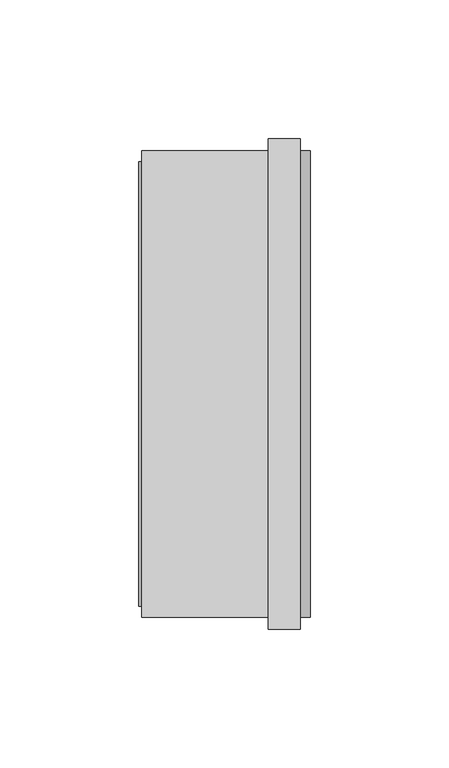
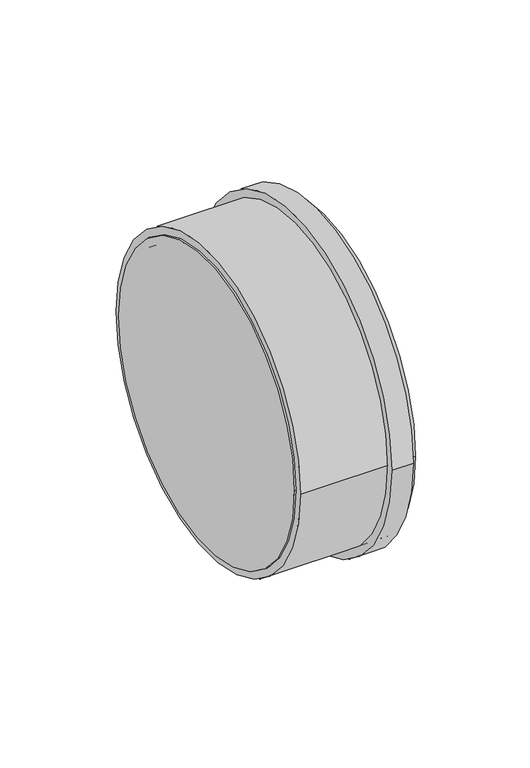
"""IFC4 building model written with IfcOpenShell, lengths in millimetres: pipe fitting geometry, Superdrain HTM-Plug : Superdrain HTM-Plug."""

from ifc_helpers import new_model, si_unit, point, frame, origin, origin_2d, place, context, project, spatial, polyline, circle_curve, trimmed, segment, composite_curve, outline, extrude, source, transform, mapped, element, save
from ifc_brep_helpers import plane_surface, cylinder_surface, revolved_surface, advanced_brep


def pipe_fitting_e70e33fe(model_context):
    return source(origin(), model_context, "Body", "SolidModel", [
        extrude(outline(composite_curve([segment(trimmed(circle_curve(origin_2d(), 84.0), [point((84.0, 0.0))], [point((-84.0, 0.0))], False, "CARTESIAN"), True, "CONTINUOUS"), segment(trimmed(circle_curve(origin_2d(), 84.0), [point((-84.0, 0.0))], [point((84.0, 0.0))], False, "CARTESIAN"), True, "CONTINUOUS")], self_intersect=False), holes=[composite_curve([segment(trimmed(circle_curve(origin_2d(), 80.0), [point((80.0, 0.0))], [point((-80.0, 0.0))], True, "CARTESIAN"), True, "CONTINUOUS"), segment(trimmed(circle_curve(origin_2d(), 80.0), [point((-80.0, 0.0))], [point((80.0, 0.0))], True, "CARTESIAN"), True, "CONTINUOUS")], self_intersect=False)]), frame((0.0, 0.0, 0.0), z_axis=(1.0, 0.0, 0.0), x_axis=(0.0, 1.0, 0.0)), (0.0, 0.0, 1.0), 57.0),
        extrude(outline(composite_curve([segment(trimmed(circle_curve(origin_2d(), 88.2), [point((88.2, 0.0))], [point((-88.2, 0.0))], False, "CARTESIAN"), True, "CONTINUOUS"), segment(trimmed(circle_curve(origin_2d(), 88.2), [point((-88.2, 0.0))], [point((88.2, 0.0))], False, "CARTESIAN"), True, "CONTINUOUS")], self_intersect=False), holes=[composite_curve([segment(trimmed(circle_curve(origin_2d(), 80.0), [point((80.0, 0.0))], [point((-80.0, 0.0))], True, "CARTESIAN"), True, "CONTINUOUS"), segment(trimmed(circle_curve(origin_2d(), 80.0), [point((-80.0, 0.0))], [point((80.0, 0.0))], True, "CARTESIAN"), True, "CONTINUOUS")], self_intersect=False)]), frame((45.6, 0.0, 0.0), z_axis=(1.0, 0.0, 0.0), x_axis=(0.0, 1.0, 0.0)), (0.0, 0.0, 1.0), 11.4),
        extrude(outline(composite_curve([segment(trimmed(circle_curve(origin_2d(), 80.0), [point((80.0, 0.0))], [point((-80.0, 0.0))], False, "CARTESIAN"), True, "CONTINUOUS"), segment(trimmed(circle_curve(origin_2d(), 80.0), [point((-80.0, 0.0))], [point((80.0, 0.0))], False, "CARTESIAN"), True, "CONTINUOUS")], self_intersect=False)), frame((-1.0, 0.0, 0.0), z_axis=(1.0, 0.0, 0.0), x_axis=(0.0, 1.0, 0.0)), (0.0, 0.0, 1.0), 1.0),
        advanced_brep(
        [(0.0, -80.0, 0.0), (0.0, 80.0, 0.0), (0.0, 76.0, 0.0), (0.0, -76.0, 0.0), (60.6, -80.0, 0.0), (60.6, 80.0, 0.0), (57.0, -76.0, 0.0), (57.0, 76.0, 0.0)],
        [
            (0, 1, circle_curve(frame((0.0, 0.0, 0.0), z_axis=(-1.0, 0.0, 0.0), x_axis=(0.0, 1.0, 0.0)), 80.0)),
            (1, 0, circle_curve(frame((0.0, 0.0, 0.0), z_axis=(-1.0, 0.0, 0.0), x_axis=(0.0, 1.0, 0.0)), 80.0)),
            (2, 3, circle_curve(frame((0.0, 0.0, 0.0), z_axis=(1.0, 0.0, 0.0), x_axis=(0.0, 1.0, 0.0)), 76.0)),
            (3, 2, circle_curve(frame((0.0, 0.0, 0.0), z_axis=(1.0, 0.0, 0.0), x_axis=(0.0, 1.0, 0.0)), 76.0)),
            (4, 5, circle_curve(frame((60.6, 0.0, 0.0), z_axis=(1.0, 0.0, 0.0), x_axis=(0.0, 1.0, 0.0)), 80.0)),
            (5, 4, circle_curve(frame((60.6, 0.0, 0.0), z_axis=(1.0, 0.0, 0.0), x_axis=(0.0, 1.0, 0.0)), 80.0)),
            (0, 4),
            (5, 1),
            (6, 7, circle_curve(frame((57.0, 0.0, 0.0), z_axis=(-1.0, 0.0, 0.0), x_axis=(0.0, 1.0, 0.0)), 76.0)),
            (7, 6, circle_curve(frame((57.0, 0.0, 0.0), z_axis=(-1.0, 0.0, 0.0), x_axis=(0.0, 1.0, 0.0)), 76.0)),
            (6, 3),
            (2, 7),
        ],
        [
            plane_surface(frame((0.0, 0.0, 0.0), z_axis=(-1.0, 0.0, 0.0), x_axis=(0.0, 0.0, 1.0))),
            plane_surface(frame((60.6, 0.0, 0.0), z_axis=(1.0, 0.0, 0.0), x_axis=(0.0, 0.0, 1.0))),
            cylinder_surface(frame((0.0, 0.0, 0.0), z_axis=(-1.0, 0.0, 0.0), x_axis=(0.0, 1.0, 0.0)), 80.0),
            plane_surface(frame((57.0, 0.0, 0.0), z_axis=(-1.0, 0.0, 0.0), x_axis=(0.0, 0.0, 1.0))),
            revolved_surface(polyline([(0.0, 76.0, 0.0), (57.0, 76.0, 0.0)]), (-3.6, 0.0, 0.0), (-1.0, 0.0, 0.0)),
        ],
        [
            (0, [[1, 2], [3, 4]]),
            (1, [[5, 6]]),
            (2, [[-1, 7, -6, 8]]),
            (2, [[-2, -8, -5, -7]]),
            (3, [[9, 10]]),
            (4, [[-9, 11, -3, 12]]),
            (4, [[-10, -12, -4, -11]]),
        ],
    ),
        extrude(outline(composite_curve([segment(trimmed(circle_curve(origin_2d(), 84.0), [point((-84.0, 0.0))], [point((84.0, 0.0))], False, "CARTESIAN"), True, "CONTINUOUS"), segment(trimmed(circle_curve(origin_2d(), 84.0), [point((84.0, 0.0))], [point((-84.0, 0.0))], False, "CARTESIAN"), True, "CONTINUOUS")], self_intersect=False)), frame((57.0, 0.0, 0.0), z_axis=(1.0, 0.0, 0.0), x_axis=(0.0, 1.0, 0.0)), (0.0, 0.0, 1.0), 3.6),
    ])


if __name__ == "__main__":
    model = new_model("IFC4")
    model_context = context("Model", 3, world=origin())
    ifc_project = project(units=[si_unit("LENGTHUNIT", "METRE", prefix="MILLI")], contexts=[model_context])
    site = spatial("IfcSite", under=ifc_project)
    building = spatial("IfcBuilding", under=site)
    placement = place(None, origin())
    pipe_fitting_shape = pipe_fitting_e70e33fe(model_context)
    element("IfcPipeFitting", 1, ObjectType="Superdrain HTM-Plug : Superdrain HTM-Plug", at=placement, inside=building, context=model_context, shape_type="MappedRepresentation", body=[
        mapped(pipe_fitting_shape, transform((0.0, 0.0, 0.0), x_axis=(1.0, 0.0, 0.0), y_axis=(0.0, 1.0, 0.0), z_axis=(0.0, 0.0, 1.0))),
    ])
    save(model, "model.ifc")
